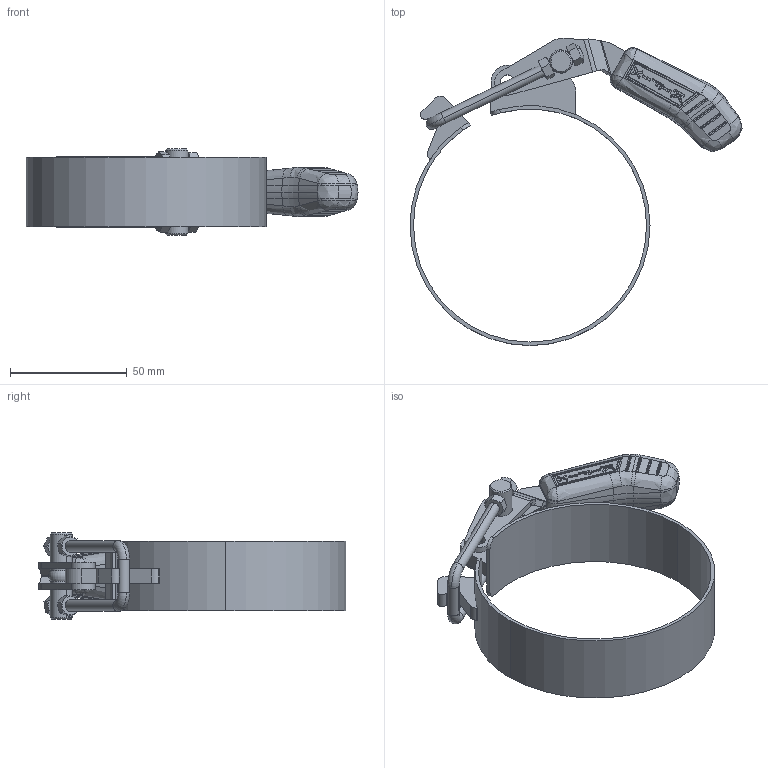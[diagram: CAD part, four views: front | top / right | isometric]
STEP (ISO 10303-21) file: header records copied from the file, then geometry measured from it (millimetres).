
FILE_DESCRIPTION (( 'STEP AP203' ), '1' );
FILE_NAME ('KF-743 CT100.STEP', '2020-10-01T12:44:35', ( '' ), ( '' ), 'SwSTEP 2.0', 'SolidWorks 2020', '' );
FILE_SCHEMA (( 'CONFIG_CONTROL_DESIGN' ));
Length unit declared in the file: millimetre
Products named in the file (11): 01.10408; 11.50013; KF-743 CT100; 22.10100; 07.60005; 01.10408_esquerda; 02.10116; 15.10208; 16.20034; 03.20018; 11.50005
Assembly tree (12 placements, depth 2):
  KF-743 CT100
    22.10100
    02.10116
    01.10408_esquerda
    01.10408
    15.10208
    16.20034
    03.20018
    11.50005  x2
    11.50013  x2
    07.60005
Bounding box: 142.46 x 131.86 x 37 mm (x, y, z)
Volume: 47760.5 mm3; surface area: 40192.4 mm2
Topology: 12 solids, 12 shells, 846 faces, 2151 edges, 1339 vertices
Faces by surface type: bspline 275, cylinder 239, plane 210, cone 64, sphere 50, torus 8
Entity records: 32390 total; most frequent: CARTESIAN_POINT 14618, ORIENTED_EDGE 4070, DIRECTION 2639, EDGE_CURVE 2035, VERTEX_POINT 1272, AXIS2_PLACEMENT_3D 989, EDGE_LOOP 829, FACE_OUTER_BOUND 797
